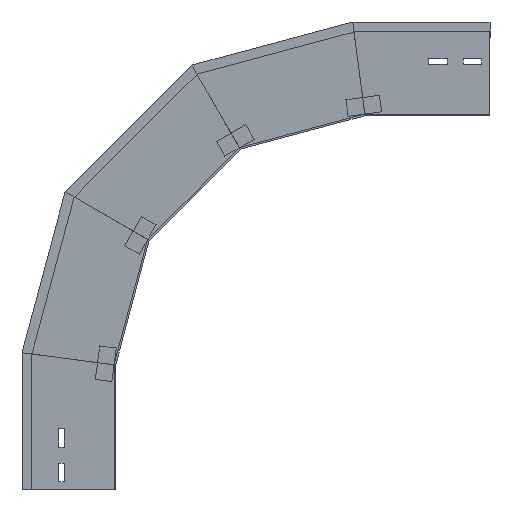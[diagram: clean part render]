
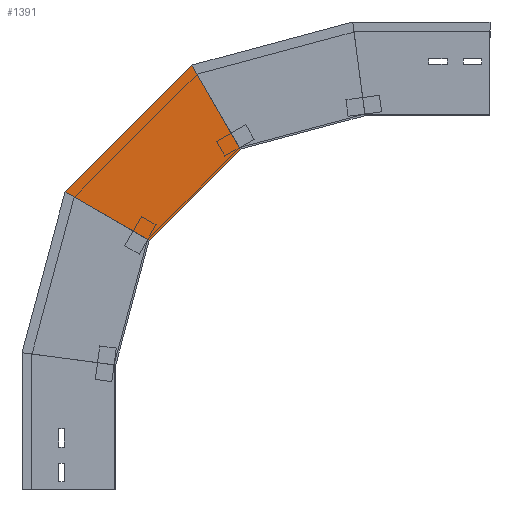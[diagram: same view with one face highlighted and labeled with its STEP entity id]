
A CAD part, left-side view. The second image highlights one B-rep face of the part: STEP entity #1391.
In plain terms, the highlighted planar face has unit normal (-1, 0, 0) as drawn and (1, 0, 0) by its records, which use the part's own axes.
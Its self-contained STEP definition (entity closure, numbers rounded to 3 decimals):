
#82 = PLANE ( 'NONE',  #441 ) ;
#144 = EDGE_CURVE ( 'NONE', #1115, #830, #1730, .T. ) ;
#166 = EDGE_LOOP ( 'NONE', ( #1219, #687, #918, #842 ) ) ;
#256 = VERTEX_POINT ( 'NONE', #869 ) ;
#322 = DIRECTION ( 'NONE',  ( 1., 0., 0. ) ) ;
#368 = VECTOR ( 'NONE', #690, 1000. ) ;
#374 = LINE ( 'NONE', #1252, #368 ) ;
#415 = EDGE_CURVE ( 'NONE', #1115, #546, #769, .T. ) ;
#441 = AXIS2_PLACEMENT_3D ( 'NONE', #1493, #322, #1342 ) ;
#505 = EDGE_CURVE ( 'NONE', #546, #256, #374, .T. ) ;
#516 = CARTESIAN_POINT ( 'NONE',  ( 0., 62.95, 355.751 ) ) ;
#546 = VERTEX_POINT ( 'NONE', #981 ) ;
#644 = CARTESIAN_POINT ( 'NONE',  ( 0., 60.748, 357.953 ) ) ;
#684 = CARTESIAN_POINT ( 'NONE',  ( 0., -78.533, 277.539 ) ) ;
#687 = ORIENTED_EDGE ( 'NONE', *, *, #505, .T. ) ;
#690 = DIRECTION ( 'NONE',  ( 0., -0.5, -0.866 ) ) ;
#769 = LINE ( 'NONE', #516, #804 ) ;
#804 = VECTOR ( 'NONE', #924, 1000. ) ;
#830 = VERTEX_POINT ( 'NONE', #1058 ) ;
#842 = ORIENTED_EDGE ( 'NONE', *, *, #144, .F. ) ;
#869 = CARTESIAN_POINT ( 'NONE',  ( 0., -149.719, 409.32 ) ) ;
#918 = ORIENTED_EDGE ( 'NONE', *, *, #1666, .F. ) ;
#924 = DIRECTION ( 'NONE',  ( 0., -0.707, 0.707 ) ) ;
#981 = CARTESIAN_POINT ( 'NONE',  ( 0., -91.484, 510.185 ) ) ;
#983 = DIRECTION ( 'NONE',  ( 0., -0.866, -0.5 ) ) ;
#1058 = CARTESIAN_POINT ( 'NONE',  ( 0., -40.117, 299.719 ) ) ;
#1115 = VERTEX_POINT ( 'NONE', #644 ) ;
#1203 = FACE_OUTER_BOUND ( 'NONE', #166, .T. ) ;
#1219 = ORIENTED_EDGE ( 'NONE', *, *, #415, .T. ) ;
#1252 = CARTESIAN_POINT ( 'NONE',  ( 0., -174.081, 367.123 ) ) ;
#1277 = DIRECTION ( 'NONE',  ( 0., -0.707, 0.707 ) ) ;
#1342 = DIRECTION ( 'NONE',  ( 0., 0., -1. ) ) ;
#1391 = ADVANCED_FACE ( 'NONE', ( #1203 ), #82, .T. ) ;
#1493 = CARTESIAN_POINT ( 'NONE',  ( 0., -16.599, 276.201 ) ) ;
#1666 = EDGE_CURVE ( 'NONE', #830, #256, #1739, .T. ) ;
#1725 = VECTOR ( 'NONE', #1277, 1000. ) ;
#1730 = LINE ( 'NONE', #684, #1782 ) ;
#1732 = CARTESIAN_POINT ( 'NONE',  ( 0., -16.599, 276.201 ) ) ;
#1739 = LINE ( 'NONE', #1732, #1725 ) ;
#1782 = VECTOR ( 'NONE', #983, 1000. ) ;
